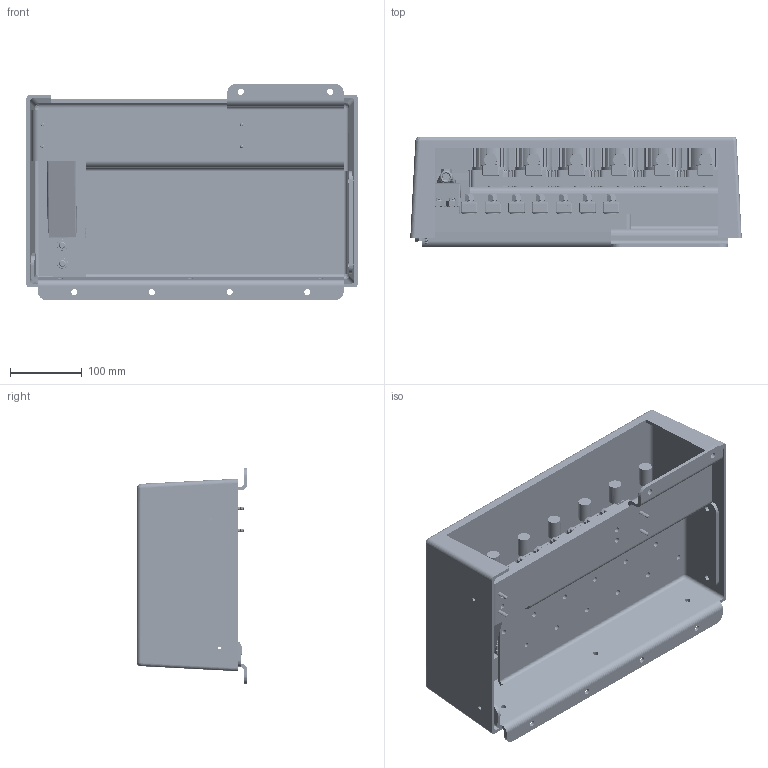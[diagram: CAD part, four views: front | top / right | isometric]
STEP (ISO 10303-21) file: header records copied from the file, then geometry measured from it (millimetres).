
FILE_DESCRIPTION (( 'STEP AP214' ), '1' );
FILE_NAME ('1105444_ASM.STEP', '2019-11-21T18:01:33', ( '' ), ( '' ), 'SwSTEP 2.0', 'SolidWorks 2014', '' );
FILE_SCHEMA (( 'AUTOMOTIVE_DESIGN' ));
Length unit declared in the file: inch
Products named in the file (42): GX14_121715_ASM; GX12_STEP_121715_ASM; Part73^1105444_ASM; M10_HEX_NUT_FLANGE-1-SOLID1; Simple Stud array 8pos; 0426-1-SOLID1; 90600A558_BUTTON HEAD TORX MACHINE SCREW_90600A558; HFHS-M10-25-1-SOLID1; 92941A626_BRASS HEX HEAD CAP SCREW_92941A626; 0276-3_0394-2-SOLID1; 0276-3_0394-1-SOLID1; Part33^Simple Stud array 8pos; 0425-1-SOLID1; Part7^Assem2; 0276-3_0276-1-SOLID1; Part6^Assem2; SCREW_FLATHEAD_PLASTITE-N-34451; Part5^Assem2; Relay Bus Array; M10_HEX_NUT_FLANGE-2-SOLID1; 6920671; Part3^Assem1; HFHS-M10-25-2-SOLID1; 92941A587_BRASS HEX HEAD CAP SCREW (1)_92941A587; Part2^Assem1; 0426-2-SOLID1; 92092A030_BRASS NYLON-INSERT LOCKNUT_92092A030; Part1^Assem1; SCREW_FLATHEAD_PLASTITE-NO-5314; Relay Bus; 1105448; 91145A185_NYLON 6-6 UNTHREADED SHLDR SPACER W FLANGE (1)_91145A185; Part74^Assem18; 1105443; 6926K217 Compression Lug; 92676A450_BRASS HEX NUT_92676A450; Part72^1105444_ASM; 92941A624_BRASS HEX HEAD CAP SCREW_92941A624; 1105444_ASM; HEX_FLANGE_NUT_AM_B18_2_2_4M_-_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
Assembly tree (94 placements, depth 4):
  Part6^Assem2
  Part1^Assem1
  1105444_ASM
    1105443
    1105448
    GX14_121715_ASM  x6
      GX12_STEP_121715_ASM
        SCREW_FLATHEAD_PLASTITE-NO-5314
        0426-2-SOLID1
        HFHS-M10-25-2-SOLID1
        M10_HEX_NUT_FLANGE-2-SOLID1
        SCREW_FLATHEAD_PLASTITE-N-34451
        0276-3_0276-1-SOLID1
        0425-1-SOLID1
        0276-3_0394-1-SOLID1
        0276-3_0394-2-SOLID1
        HFHS-M10-25-1-SOLID1
        0426-1-SOLID1
        M10_HEX_NUT_FLANGE-1-SOLID1
    LUG_1  x6
    HEX_FLANGE_NUT_AM_B18_2_2_4M_-_  x6
    Part72^1105444_ASM
    6926K217 Compression Lug
    Simple Stud array 8pos
      91145A185_NYLON 6-6 UNTHREADED SHLDR SPACER W FLANGE (1)_91145A185  x7
      92092A030_BRASS NYLON-INSERT LOCKNUT_92092A030  x7
      92941A587_BRASS HEX HEAD CAP SCREW (1)_92941A587  x7
      6920671  x7
      Part5^Assem2
      Part7^Assem2
      Part33^Simple Stud array 8pos
      92941A626_BRASS HEX HEAD CAP SCREW_92941A626  x2
      90600A558_BUTTON HEAD TORX MACHINE SCREW_90600A558  x4
    Part73^1105444_ASM
    92941A628_BRASS HEX HEAD CAP SCREW_92941A628
    92941A624_BRASS HEX HEAD CAP SCREW_92941A624
    92676A450_BRASS HEX NUT_92676A450  x4
    Relay Bus Array
      Relay Bus  x6
        Part74^Assem18
        6920671
        91145A185_NYLON 6-6 UNTHREADED SHLDR SPACER W FLANGE (1)_91145A185
        92941A587_BRASS HEX HEAD CAP SCREW (1)_92941A587
        92092A030_BRASS NYLON-INSERT LOCKNUT_92092A030
      Part2^Assem1
      Part3^Assem1
Bounding box: 462.76 x 154.35 x 302.38 mm (x, y, z)
Volume: 3187644.2 mm3; surface area: 1673244.6 mm2
Topology: 165 solids, 204 shells, 45307 faces, 123451 edges, 80601 vertices
Faces by surface type: plane 30423, cylinder 6546, bspline 5012, cone 2694, torus 390, sphere 242
Entity records: 306147 total; most frequent: CARTESIAN_POINT 111286, ORIENTED_EDGE 29878, DIRECTION 23281, EDGE_CURVE 14960, VECTOR 9809, LINE 9809, VERTEX_POINT 9740, AXIS2_PLACEMENT_3D 6736
